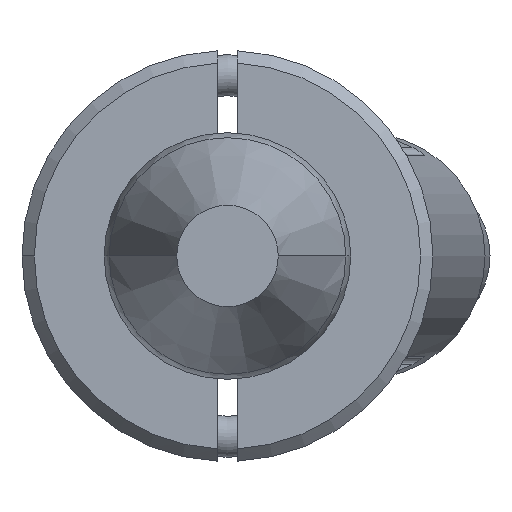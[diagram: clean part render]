
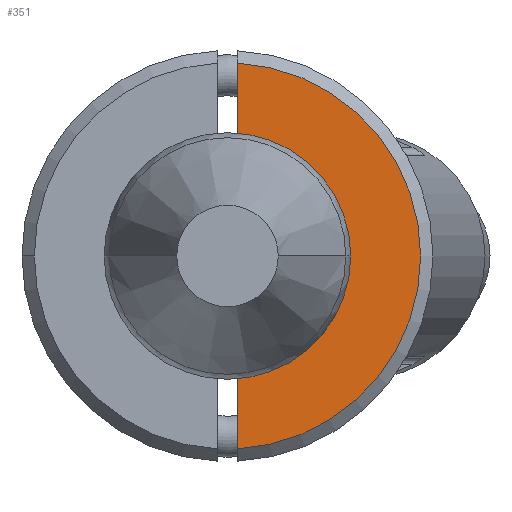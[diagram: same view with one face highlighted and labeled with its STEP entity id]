
A CAD part, front view. The second image highlights one B-rep face of the part: STEP entity #351.
In plain terms, the highlighted planar face has unit normal (0, -1, 0).
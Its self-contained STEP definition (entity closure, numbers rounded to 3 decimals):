
#102 = DIRECTION ( 'NONE',  ( 0., 0., -1. ) ) ;
#276 = CIRCLE ( 'NONE', #1322, 4.7 ) ;
#287 = CARTESIAN_POINT ( 'NONE',  ( -5., -6., 0. ) ) ;
#334 = DIRECTION ( 'NONE',  ( 0., -1., 0. ) ) ;
#351 = ADVANCED_FACE ( 'NONE', ( #597 ), #2404, .T. ) ;
#375 = AXIS2_PLACEMENT_3D ( 'NONE', #3346, #3034, #102 ) ;
#432 = DIRECTION ( 'NONE',  ( 0., 1., 0. ) ) ;
#523 = DIRECTION ( 'NONE',  ( 0., 0., -1. ) ) ;
#580 = EDGE_LOOP ( 'NONE', ( #1295, #1328, #3598, #1851, #3594 ) ) ;
#597 = FACE_OUTER_BOUND ( 'NONE', #580, .T. ) ;
#773 = CARTESIAN_POINT ( 'NONE',  ( -4.693, -6., -0.25 ) ) ;
#1095 = VERTEX_POINT ( 'NONE', #2234 ) ;
#1118 = CARTESIAN_POINT ( 'NONE',  ( 2.437, -6., -0.25 ) ) ;
#1170 = LINE ( 'NONE', #3794, #2060 ) ;
#1295 = ORIENTED_EDGE ( 'NONE', *, *, #1407, .F. ) ;
#1322 = AXIS2_PLACEMENT_3D ( 'NONE', #3553, #1775, #523 ) ;
#1326 = DIRECTION ( 'NONE',  ( 0., 0., -1. ) ) ;
#1328 = ORIENTED_EDGE ( 'NONE', *, *, #2360, .T. ) ;
#1361 = CARTESIAN_POINT ( 'NONE',  ( 0., -6., -2.45 ) ) ;
#1399 = AXIS2_PLACEMENT_3D ( 'NONE', #3101, #432, #1326 ) ;
#1407 = EDGE_CURVE ( 'NONE', #1966, #1564, #1170, .T. ) ;
#1492 = EDGE_CURVE ( 'NONE', #3546, #1564, #2820, .T. ) ;
#1564 = VERTEX_POINT ( 'NONE', #3361 ) ;
#1775 = DIRECTION ( 'NONE',  ( 0., -1., 0. ) ) ;
#1851 = ORIENTED_EDGE ( 'NONE', *, *, #2736, .T. ) ;
#1966 = VERTEX_POINT ( 'NONE', #773 ) ;
#2060 = VECTOR ( 'NONE', #2890, 1000. ) ;
#2066 = DIRECTION ( 'NONE',  ( 0., 0., -1. ) ) ;
#2087 = LINE ( 'NONE', #2441, #2188 ) ;
#2188 = VECTOR ( 'NONE', #3269, 1000. ) ;
#2234 = CARTESIAN_POINT ( 'NONE',  ( 4.693, -6., -0.25 ) ) ;
#2360 = EDGE_CURVE ( 'NONE', #1966, #1095, #276, .T. ) ;
#2404 = PLANE ( 'NONE',  #3555 ) ;
#2441 = CARTESIAN_POINT ( 'NONE',  ( -5., -6., -0.25 ) ) ;
#2620 = EDGE_CURVE ( 'NONE', #2877, #1095, #2087, .T. ) ;
#2736 = EDGE_CURVE ( 'NONE', #2877, #3546, #2902, .T. ) ;
#2820 = CIRCLE ( 'NONE', #375, 2.45 ) ;
#2877 = VERTEX_POINT ( 'NONE', #1118 ) ;
#2890 = DIRECTION ( 'NONE',  ( 1., 0., 0. ) ) ;
#2902 = CIRCLE ( 'NONE', #1399, 2.45 ) ;
#3034 = DIRECTION ( 'NONE',  ( 0., 1., 0. ) ) ;
#3101 = CARTESIAN_POINT ( 'NONE',  ( 0., -6., 0. ) ) ;
#3269 = DIRECTION ( 'NONE',  ( 1., 0., 0. ) ) ;
#3346 = CARTESIAN_POINT ( 'NONE',  ( 0., -6., 0. ) ) ;
#3361 = CARTESIAN_POINT ( 'NONE',  ( -2.437, -6., -0.25 ) ) ;
#3546 = VERTEX_POINT ( 'NONE', #1361 ) ;
#3553 = CARTESIAN_POINT ( 'NONE',  ( 0., -6., 0. ) ) ;
#3555 = AXIS2_PLACEMENT_3D ( 'NONE', #287, #334, #2066 ) ;
#3594 = ORIENTED_EDGE ( 'NONE', *, *, #1492, .T. ) ;
#3598 = ORIENTED_EDGE ( 'NONE', *, *, #2620, .F. ) ;
#3794 = CARTESIAN_POINT ( 'NONE',  ( -5., -6., -0.25 ) ) ;
